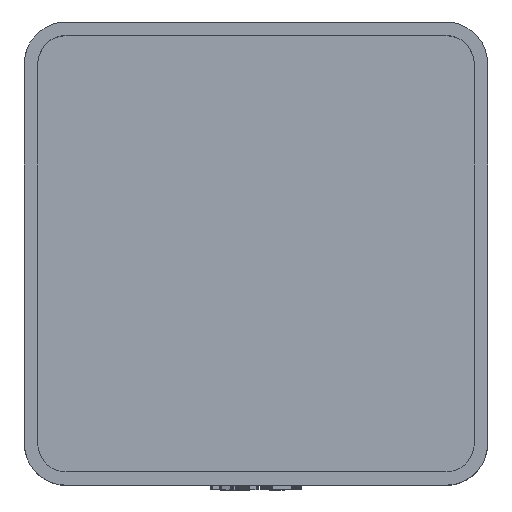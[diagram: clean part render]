
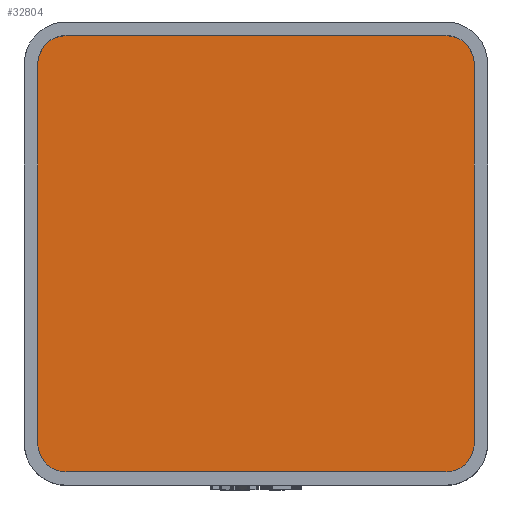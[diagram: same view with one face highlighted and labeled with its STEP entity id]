
A CAD part, top view. The second image highlights one B-rep face of the part: STEP entity #32804.
In plain terms, the highlighted planar face has unit normal (0, 0, 1).
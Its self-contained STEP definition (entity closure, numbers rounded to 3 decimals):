
#1442 = PLANE('',#1443);
#1443 = AXIS2_PLACEMENT_3D('',#1444,#1445,#1446);
#1444 = CARTESIAN_POINT('',(-19.55,-17.,4.75));
#1445 = DIRECTION('',(-1.,0.,0.));
#1446 = DIRECTION('',(0.,1.,0.));
#1474 = CYLINDRICAL_SURFACE('',#1475,2.55);
#1475 = AXIS2_PLACEMENT_3D('',#1476,#1477,#1478);
#1476 = CARTESIAN_POINT('',(-17.,17.,4.75));
#1477 = DIRECTION('',(-0.,-0.,-1.));
#1478 = DIRECTION('',(1.,0.,0.));
#1501 = PLANE('',#1502);
#1502 = AXIS2_PLACEMENT_3D('',#1503,#1504,#1505);
#1503 = CARTESIAN_POINT('',(-17.,19.55,4.75));
#1504 = DIRECTION('',(0.,1.,0.));
#1505 = DIRECTION('',(1.,0.,0.));
#1533 = CYLINDRICAL_SURFACE('',#1534,2.55);
#1534 = AXIS2_PLACEMENT_3D('',#1535,#1536,#1537);
#1535 = CARTESIAN_POINT('',(17.,17.,4.75));
#1536 = DIRECTION('',(-0.,-0.,-1.));
#1537 = DIRECTION('',(1.,0.,0.));
#1560 = PLANE('',#1561);
#1561 = AXIS2_PLACEMENT_3D('',#1562,#1563,#1564);
#1562 = CARTESIAN_POINT('',(19.55,-17.,4.75));
#1563 = DIRECTION('',(-1.,0.,0.));
#1564 = DIRECTION('',(0.,1.,0.));
#1592 = CYLINDRICAL_SURFACE('',#1593,2.55);
#1593 = AXIS2_PLACEMENT_3D('',#1594,#1595,#1596);
#1594 = CARTESIAN_POINT('',(17.,-17.,4.75));
#1595 = DIRECTION('',(-0.,-0.,-1.));
#1596 = DIRECTION('',(1.,0.,0.));
#1619 = PLANE('',#1620);
#1620 = AXIS2_PLACEMENT_3D('',#1621,#1622,#1623);
#1621 = CARTESIAN_POINT('',(-17.,-19.55,4.75));
#1622 = DIRECTION('',(0.,1.,0.));
#1623 = DIRECTION('',(1.,0.,0.));
#1649 = CYLINDRICAL_SURFACE('',#1650,2.55);
#1650 = AXIS2_PLACEMENT_3D('',#1651,#1652,#1653);
#1651 = CARTESIAN_POINT('',(-17.,-17.,4.75));
#1652 = DIRECTION('',(-0.,-0.,-1.));
#1653 = DIRECTION('',(1.,0.,0.));
#12395 = EDGE_CURVE('',#12396,#12398,#12400,.T.);
#12396 = VERTEX_POINT('',#12397);
#12397 = CARTESIAN_POINT('',(-19.55,-17.,4.75));
#12398 = VERTEX_POINT('',#12399);
#12399 = CARTESIAN_POINT('',(-19.55,17.,4.75));
#12400 = SURFACE_CURVE('',#12401,(#12405,#12412),.PCURVE_S1.);
#12401 = LINE('',#12402,#12403);
#12402 = CARTESIAN_POINT('',(-19.55,0.,4.75));
#12403 = VECTOR('',#12404,1.);
#12404 = DIRECTION('',(0.,1.,0.));
#12405 = PCURVE('',#1442,#12406);
#12406 = DEFINITIONAL_REPRESENTATION('',(#12407),#12411);
#12407 = LINE('',#12408,#12409);
#12408 = CARTESIAN_POINT('',(17.,0.));
#12409 = VECTOR('',#12410,1.);
#12410 = DIRECTION('',(1.,0.));
#12411 = ( GEOMETRIC_REPRESENTATION_CONTEXT(2) 
PARAMETRIC_REPRESENTATION_CONTEXT() REPRESENTATION_CONTEXT('2D SPACE',''
  ) );
#12412 = PCURVE('',#12413,#12418);
#12413 = PLANE('',#12414);
#12414 = AXIS2_PLACEMENT_3D('',#12415,#12416,#12417);
#12415 = CARTESIAN_POINT('',(0.,0.,4.75
    ));
#12416 = DIRECTION('',(0.,0.,1.));
#12417 = DIRECTION('',(1.,0.,-0.));
#12418 = DEFINITIONAL_REPRESENTATION('',(#12419),#12423);
#12419 = LINE('',#12420,#12421);
#12420 = CARTESIAN_POINT('',(-19.55,0.));
#12421 = VECTOR('',#12422,1.);
#12422 = DIRECTION('',(0.,1.));
#12423 = ( GEOMETRIC_REPRESENTATION_CONTEXT(2) 
PARAMETRIC_REPRESENTATION_CONTEXT() REPRESENTATION_CONTEXT('2D SPACE',''
  ) );
#12471 = EDGE_CURVE('',#12396,#12472,#12474,.T.);
#12472 = VERTEX_POINT('',#12473);
#12473 = CARTESIAN_POINT('',(-17.,-19.55,4.75));
#12474 = SURFACE_CURVE('',#12475,(#12480,#12487),.PCURVE_S1.);
#12475 = CIRCLE('',#12476,2.55);
#12476 = AXIS2_PLACEMENT_3D('',#12477,#12478,#12479);
#12477 = CARTESIAN_POINT('',(-17.,-17.,4.75));
#12478 = DIRECTION('',(0.,0.,1.));
#12479 = DIRECTION('',(1.,0.,0.));
#12480 = PCURVE('',#1649,#12481);
#12481 = DEFINITIONAL_REPRESENTATION('',(#12482),#12486);
#12482 = LINE('',#12483,#12484);
#12483 = CARTESIAN_POINT('',(-0.,0.));
#12484 = VECTOR('',#12485,1.);
#12485 = DIRECTION('',(-1.,0.));
#12486 = ( GEOMETRIC_REPRESENTATION_CONTEXT(2) 
PARAMETRIC_REPRESENTATION_CONTEXT() REPRESENTATION_CONTEXT('2D SPACE',''
  ) );
#12487 = PCURVE('',#12413,#12488);
#12488 = DEFINITIONAL_REPRESENTATION('',(#12489),#12493);
#12489 = CIRCLE('',#12490,2.55);
#12490 = AXIS2_PLACEMENT_2D('',#12491,#12492);
#12491 = CARTESIAN_POINT('',(-17.,-17.));
#12492 = DIRECTION('',(1.,0.));
#12493 = ( GEOMETRIC_REPRESENTATION_CONTEXT(2) 
PARAMETRIC_REPRESENTATION_CONTEXT() REPRESENTATION_CONTEXT('2D SPACE',''
  ) );
#12521 = EDGE_CURVE('',#12472,#12522,#12524,.T.);
#12522 = VERTEX_POINT('',#12523);
#12523 = CARTESIAN_POINT('',(17.,-19.55,4.75));
#12524 = SURFACE_CURVE('',#12525,(#12529,#12536),.PCURVE_S1.);
#12525 = LINE('',#12526,#12527);
#12526 = CARTESIAN_POINT('',(0.,-19.55,4.75));
#12527 = VECTOR('',#12528,1.);
#12528 = DIRECTION('',(1.,0.,0.));
#12529 = PCURVE('',#1619,#12530);
#12530 = DEFINITIONAL_REPRESENTATION('',(#12531),#12535);
#12531 = LINE('',#12532,#12533);
#12532 = CARTESIAN_POINT('',(17.,0.));
#12533 = VECTOR('',#12534,1.);
#12534 = DIRECTION('',(1.,0.));
#12535 = ( GEOMETRIC_REPRESENTATION_CONTEXT(2) 
PARAMETRIC_REPRESENTATION_CONTEXT() REPRESENTATION_CONTEXT('2D SPACE',''
  ) );
#12536 = PCURVE('',#12413,#12537);
#12537 = DEFINITIONAL_REPRESENTATION('',(#12538),#12542);
#12538 = LINE('',#12539,#12540);
#12539 = CARTESIAN_POINT('',(0.,-19.55));
#12540 = VECTOR('',#12541,1.);
#12541 = DIRECTION('',(1.,0.));
#12542 = ( GEOMETRIC_REPRESENTATION_CONTEXT(2) 
PARAMETRIC_REPRESENTATION_CONTEXT() REPRESENTATION_CONTEXT('2D SPACE',''
  ) );
#12570 = EDGE_CURVE('',#12522,#12571,#12573,.T.);
#12571 = VERTEX_POINT('',#12572);
#12572 = CARTESIAN_POINT('',(19.55,-17.,4.75));
#12573 = SURFACE_CURVE('',#12574,(#12579,#12586),.PCURVE_S1.);
#12574 = CIRCLE('',#12575,2.55);
#12575 = AXIS2_PLACEMENT_3D('',#12576,#12577,#12578);
#12576 = CARTESIAN_POINT('',(17.,-17.,4.75));
#12577 = DIRECTION('',(0.,0.,1.));
#12578 = DIRECTION('',(1.,0.,0.));
#12579 = PCURVE('',#1592,#12580);
#12580 = DEFINITIONAL_REPRESENTATION('',(#12581),#12585);
#12581 = LINE('',#12582,#12583);
#12582 = CARTESIAN_POINT('',(-0.,0.));
#12583 = VECTOR('',#12584,1.);
#12584 = DIRECTION('',(-1.,0.));
#12585 = ( GEOMETRIC_REPRESENTATION_CONTEXT(2) 
PARAMETRIC_REPRESENTATION_CONTEXT() REPRESENTATION_CONTEXT('2D SPACE',''
  ) );
#12586 = PCURVE('',#12413,#12587);
#12587 = DEFINITIONAL_REPRESENTATION('',(#12588),#12592);
#12588 = CIRCLE('',#12589,2.55);
#12589 = AXIS2_PLACEMENT_2D('',#12590,#12591);
#12590 = CARTESIAN_POINT('',(17.,-17.));
#12591 = DIRECTION('',(1.,0.));
#12592 = ( GEOMETRIC_REPRESENTATION_CONTEXT(2) 
PARAMETRIC_REPRESENTATION_CONTEXT() REPRESENTATION_CONTEXT('2D SPACE',''
  ) );
#12620 = EDGE_CURVE('',#12571,#12621,#12623,.T.);
#12621 = VERTEX_POINT('',#12622);
#12622 = CARTESIAN_POINT('',(19.55,17.,4.75));
#12623 = SURFACE_CURVE('',#12624,(#12628,#12635),.PCURVE_S1.);
#12624 = LINE('',#12625,#12626);
#12625 = CARTESIAN_POINT('',(19.55,0.,4.75));
#12626 = VECTOR('',#12627,1.);
#12627 = DIRECTION('',(0.,1.,0.));
#12628 = PCURVE('',#1560,#12629);
#12629 = DEFINITIONAL_REPRESENTATION('',(#12630),#12634);
#12630 = LINE('',#12631,#12632);
#12631 = CARTESIAN_POINT('',(17.,0.));
#12632 = VECTOR('',#12633,1.);
#12633 = DIRECTION('',(1.,0.));
#12634 = ( GEOMETRIC_REPRESENTATION_CONTEXT(2) 
PARAMETRIC_REPRESENTATION_CONTEXT() REPRESENTATION_CONTEXT('2D SPACE',''
  ) );
#12635 = PCURVE('',#12413,#12636);
#12636 = DEFINITIONAL_REPRESENTATION('',(#12637),#12641);
#12637 = LINE('',#12638,#12639);
#12638 = CARTESIAN_POINT('',(19.55,0.));
#12639 = VECTOR('',#12640,1.);
#12640 = DIRECTION('',(0.,1.));
#12641 = ( GEOMETRIC_REPRESENTATION_CONTEXT(2) 
PARAMETRIC_REPRESENTATION_CONTEXT() REPRESENTATION_CONTEXT('2D SPACE',''
  ) );
#12669 = EDGE_CURVE('',#12621,#12670,#12672,.T.);
#12670 = VERTEX_POINT('',#12671);
#12671 = CARTESIAN_POINT('',(17.,19.55,4.75));
#12672 = SURFACE_CURVE('',#12673,(#12678,#12685),.PCURVE_S1.);
#12673 = CIRCLE('',#12674,2.55);
#12674 = AXIS2_PLACEMENT_3D('',#12675,#12676,#12677);
#12675 = CARTESIAN_POINT('',(17.,17.,4.75));
#12676 = DIRECTION('',(0.,0.,1.));
#12677 = DIRECTION('',(1.,0.,0.));
#12678 = PCURVE('',#1533,#12679);
#12679 = DEFINITIONAL_REPRESENTATION('',(#12680),#12684);
#12680 = LINE('',#12681,#12682);
#12681 = CARTESIAN_POINT('',(-0.,0.));
#12682 = VECTOR('',#12683,1.);
#12683 = DIRECTION('',(-1.,0.));
#12684 = ( GEOMETRIC_REPRESENTATION_CONTEXT(2) 
PARAMETRIC_REPRESENTATION_CONTEXT() REPRESENTATION_CONTEXT('2D SPACE',''
  ) );
#12685 = PCURVE('',#12413,#12686);
#12686 = DEFINITIONAL_REPRESENTATION('',(#12687),#12691);
#12687 = CIRCLE('',#12688,2.55);
#12688 = AXIS2_PLACEMENT_2D('',#12689,#12690);
#12689 = CARTESIAN_POINT('',(17.,17.));
#12690 = DIRECTION('',(1.,0.));
#12691 = ( GEOMETRIC_REPRESENTATION_CONTEXT(2) 
PARAMETRIC_REPRESENTATION_CONTEXT() REPRESENTATION_CONTEXT('2D SPACE',''
  ) );
#12719 = EDGE_CURVE('',#12720,#12670,#12722,.T.);
#12720 = VERTEX_POINT('',#12721);
#12721 = CARTESIAN_POINT('',(-17.,19.55,4.75));
#12722 = SURFACE_CURVE('',#12723,(#12727,#12734),.PCURVE_S1.);
#12723 = LINE('',#12724,#12725);
#12724 = CARTESIAN_POINT('',(0.,19.55,4.75));
#12725 = VECTOR('',#12726,1.);
#12726 = DIRECTION('',(1.,0.,0.));
#12727 = PCURVE('',#1501,#12728);
#12728 = DEFINITIONAL_REPRESENTATION('',(#12729),#12733);
#12729 = LINE('',#12730,#12731);
#12730 = CARTESIAN_POINT('',(17.,0.));
#12731 = VECTOR('',#12732,1.);
#12732 = DIRECTION('',(1.,0.));
#12733 = ( GEOMETRIC_REPRESENTATION_CONTEXT(2) 
PARAMETRIC_REPRESENTATION_CONTEXT() REPRESENTATION_CONTEXT('2D SPACE',''
  ) );
#12734 = PCURVE('',#12413,#12735);
#12735 = DEFINITIONAL_REPRESENTATION('',(#12736),#12740);
#12736 = LINE('',#12737,#12738);
#12737 = CARTESIAN_POINT('',(0.,19.55));
#12738 = VECTOR('',#12739,1.);
#12739 = DIRECTION('',(1.,0.));
#12740 = ( GEOMETRIC_REPRESENTATION_CONTEXT(2) 
PARAMETRIC_REPRESENTATION_CONTEXT() REPRESENTATION_CONTEXT('2D SPACE',''
  ) );
#12768 = EDGE_CURVE('',#12720,#12398,#12769,.T.);
#12769 = SURFACE_CURVE('',#12770,(#12775,#12782),.PCURVE_S1.);
#12770 = CIRCLE('',#12771,2.55);
#12771 = AXIS2_PLACEMENT_3D('',#12772,#12773,#12774);
#12772 = CARTESIAN_POINT('',(-17.,17.,4.75));
#12773 = DIRECTION('',(0.,0.,1.));
#12774 = DIRECTION('',(1.,0.,0.));
#12775 = PCURVE('',#1474,#12776);
#12776 = DEFINITIONAL_REPRESENTATION('',(#12777),#12781);
#12777 = LINE('',#12778,#12779);
#12778 = CARTESIAN_POINT('',(-0.,0.));
#12779 = VECTOR('',#12780,1.);
#12780 = DIRECTION('',(-1.,0.));
#12781 = ( GEOMETRIC_REPRESENTATION_CONTEXT(2) 
PARAMETRIC_REPRESENTATION_CONTEXT() REPRESENTATION_CONTEXT('2D SPACE',''
  ) );
#12782 = PCURVE('',#12413,#12783);
#12783 = DEFINITIONAL_REPRESENTATION('',(#12784),#12788);
#12784 = CIRCLE('',#12785,2.55);
#12785 = AXIS2_PLACEMENT_2D('',#12786,#12787);
#12786 = CARTESIAN_POINT('',(-17.,17.));
#12787 = DIRECTION('',(1.,0.));
#12788 = ( GEOMETRIC_REPRESENTATION_CONTEXT(2) 
PARAMETRIC_REPRESENTATION_CONTEXT() REPRESENTATION_CONTEXT('2D SPACE',''
  ) );
#32804 = ADVANCED_FACE('',(#32805),#12413,.T.);
#32805 = FACE_BOUND('',#32806,.T.);
#32806 = EDGE_LOOP('',(#32807,#32808,#32809,#32810,#32811,#32812,#32813,
    #32814));
#32807 = ORIENTED_EDGE('',*,*,#12395,.F.);
#32808 = ORIENTED_EDGE('',*,*,#12471,.T.);
#32809 = ORIENTED_EDGE('',*,*,#12521,.T.);
#32810 = ORIENTED_EDGE('',*,*,#12570,.T.);
#32811 = ORIENTED_EDGE('',*,*,#12620,.T.);
#32812 = ORIENTED_EDGE('',*,*,#12669,.T.);
#32813 = ORIENTED_EDGE('',*,*,#12719,.F.);
#32814 = ORIENTED_EDGE('',*,*,#12768,.T.);
